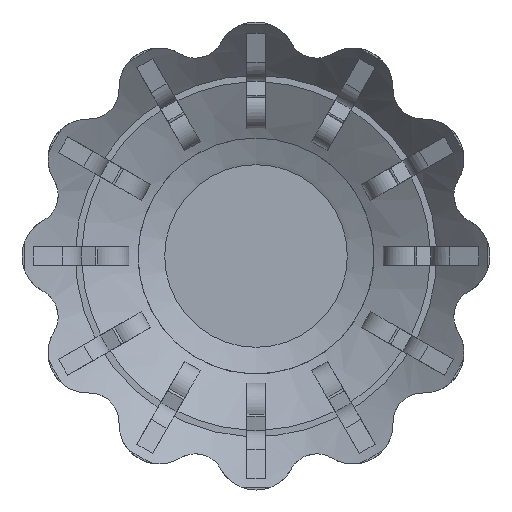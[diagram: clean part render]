
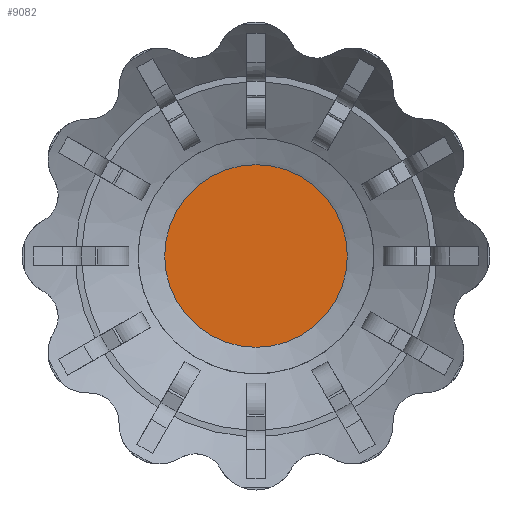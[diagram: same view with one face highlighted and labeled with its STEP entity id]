
A CAD part, front view. The second image highlights one B-rep face of the part: STEP entity #9082.
In plain terms, the highlighted planar face has unit normal (0, -1, 0).
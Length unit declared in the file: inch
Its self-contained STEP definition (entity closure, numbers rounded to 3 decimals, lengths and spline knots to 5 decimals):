
#1836 = CIRCLE ( 'NONE', #9954, 0.47244 ) ;
#2132 = FACE_OUTER_BOUND ( 'NONE', #5639, .T. ) ;
#3311 = DIRECTION ( 'NONE',  ( 0., 1., 0. ) ) ;
#3477 = AXIS2_PLACEMENT_3D ( 'NONE', #4542, #8957, #7651 ) ;
#3933 = CARTESIAN_POINT ( 'NONE',  ( 0., -0.88583, 0.47244 ) ) ;
#4542 = CARTESIAN_POINT ( 'NONE',  ( 0., -0.88583, 0. ) ) ;
#5639 = EDGE_LOOP ( 'NONE', ( #10762 ) ) ;
#7651 = DIRECTION ( 'NONE',  ( 0., 0., -1. ) ) ;
#8345 = EDGE_CURVE ( 'NONE', #10285, #10285, #1836, .T. ) ;
#8957 = DIRECTION ( 'NONE',  ( 0., -1., 0. ) ) ;
#9082 = ADVANCED_FACE ( 'NONE', ( #2132 ), #9609, .T. ) ;
#9214 = CARTESIAN_POINT ( 'NONE',  ( 0., -0.88583, 0. ) ) ;
#9609 = PLANE ( 'NONE',  #3477 ) ;
#9954 = AXIS2_PLACEMENT_3D ( 'NONE', #9214, #3311, #12280 ) ;
#10285 = VERTEX_POINT ( 'NONE', #3933 ) ;
#10762 = ORIENTED_EDGE ( 'NONE', *, *, #8345, .F. ) ;
#12280 = DIRECTION ( 'NONE',  ( 0., 0., 1. ) ) ;
